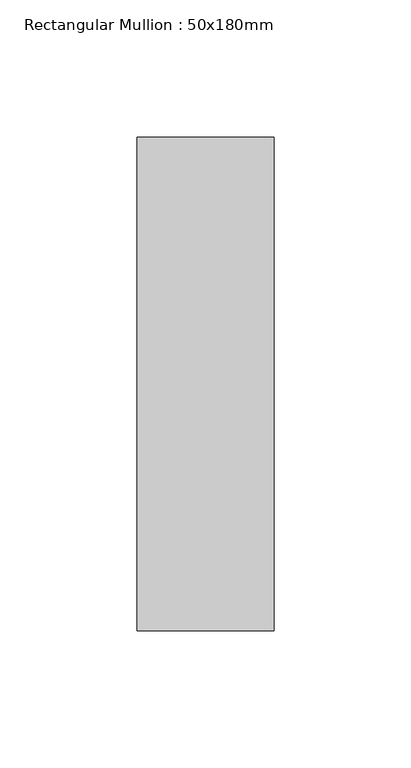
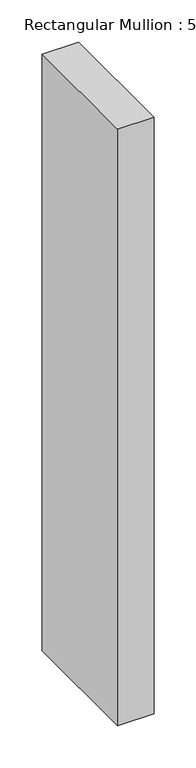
"""IFC4 building model written with IfcOpenShell, lengths in millimetres: member geometry, Rectangular Mullion : 50x180mm."""

from ifc_helpers import new_model, si_unit, frame, origin, place, context, project, spatial, polyline, outline, extrude, source, transform, mapped, element, save


def rectangular_mullion_50x180mm_9c451c64(model_context):
    return source(origin(), model_context, "Body", "SweptSolid", [
        extrude(outline(polyline([(25.0, 90.0), (25.0, -90.0), (-25.0, -90.0), (-25.0, 90.0), (25.0, 90.0)])), frame((0.0, 0.0, -865.0), z_axis=(0.0, 0.0, 1.0), x_axis=(1.0, 0.0, 0.0)), (0.0, 0.0, 1.0), 865.0),
    ])


if __name__ == "__main__":
    model = new_model("IFC4")
    model_context = context("Model", 3, world=origin())
    ifc_project = project(units=[si_unit("LENGTHUNIT", "METRE", prefix="MILLI")], contexts=[model_context])
    site = spatial("IfcSite", under=ifc_project)
    building = spatial("IfcBuilding", under=site)
    placement = place(None, origin())
    rectangular_mullion_50x180mm_shape = rectangular_mullion_50x180mm_9c451c64(model_context)
    element("IfcMember", 1, ObjectType="Rectangular Mullion : 50x180mm", at=placement, inside=building, context=model_context, shape_type="MappedRepresentation", body=[
        mapped(rectangular_mullion_50x180mm_shape, transform((0.0, 0.0, 0.0), x_axis=(1.0, 0.0, 0.0), y_axis=(0.0, 1.0, 0.0), z_axis=(0.0, 0.0, 1.0))),
    ])
    save(model, "model.ifc")
